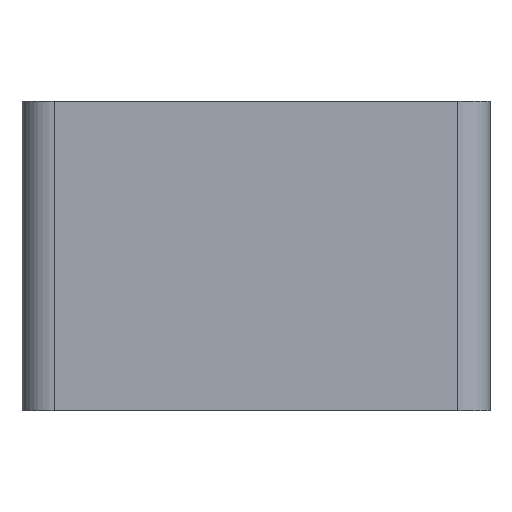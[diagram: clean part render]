
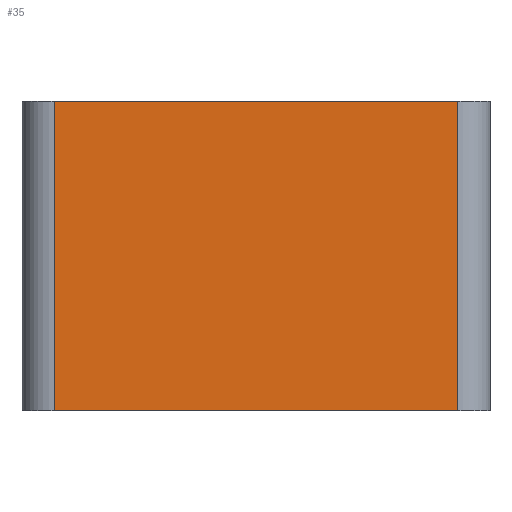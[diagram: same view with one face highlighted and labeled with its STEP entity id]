
A CAD part, left-side view. The second image highlights one B-rep face of the part: STEP entity #35.
In plain terms, the highlighted planar face has unit normal (-1, 0, 0).
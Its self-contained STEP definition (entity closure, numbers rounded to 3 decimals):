
#35 = ADVANCED_FACE('',(#36),#50,.F.);
#36 = FACE_BOUND('',#37,.F.);
#37 = EDGE_LOOP('',(#38,#73,#101,#129));
#38 = ORIENTED_EDGE('',*,*,#39,.F.);
#39 = EDGE_CURVE('',#40,#42,#44,.T.);
#40 = VERTEX_POINT('',#41);
#41 = CARTESIAN_POINT('',(-95.,-104.,4.8));
#42 = VERTEX_POINT('',#43);
#43 = CARTESIAN_POINT('',(-95.,-104.,120.));
#44 = SURFACE_CURVE('',#45,(#49,#61),.PCURVE_S1.);
#45 = LINE('',#46,#47);
#46 = CARTESIAN_POINT('',(-95.,-104.,4.8));
#47 = VECTOR('',#48,1.);
#48 = DIRECTION('',(0.,0.,1.));
#49 = PCURVE('',#50,#55);
#50 = PLANE('',#51);
#51 = AXIS2_PLACEMENT_3D('',#52,#53,#54);
#52 = CARTESIAN_POINT('',(-95.,-104.,62.4));
#53 = DIRECTION('',(1.,0.,0.));
#54 = DIRECTION('',(-0.,1.,0.));
#55 = DEFINITIONAL_REPRESENTATION('',(#56),#60);
#56 = LINE('',#57,#58);
#57 = CARTESIAN_POINT('',(0.,-57.6));
#58 = VECTOR('',#59,1.);
#59 = DIRECTION('',(0.,1.));
#60 = ( GEOMETRIC_REPRESENTATION_CONTEXT(2) 
PARAMETRIC_REPRESENTATION_CONTEXT() REPRESENTATION_CONTEXT('2D SPACE',''
  ) );
#61 = PCURVE('',#62,#67);
#62 = CYLINDRICAL_SURFACE('',#63,12.);
#63 = AXIS2_PLACEMENT_3D('',#64,#65,#66);
#64 = CARTESIAN_POINT('',(-83.,-104.,62.4));
#65 = DIRECTION('',(0.,0.,1.));
#66 = DIRECTION('',(-1.,0.,0.));
#67 = DEFINITIONAL_REPRESENTATION('',(#68),#72);
#68 = LINE('',#69,#70);
#69 = CARTESIAN_POINT('',(0.,-57.6));
#70 = VECTOR('',#71,1.);
#71 = DIRECTION('',(0.,1.));
#72 = ( GEOMETRIC_REPRESENTATION_CONTEXT(2) 
PARAMETRIC_REPRESENTATION_CONTEXT() REPRESENTATION_CONTEXT('2D SPACE',''
  ) );
#73 = ORIENTED_EDGE('',*,*,#74,.T.);
#74 = EDGE_CURVE('',#40,#75,#77,.T.);
#75 = VERTEX_POINT('',#76);
#76 = CARTESIAN_POINT('',(-95.,46.,4.8));
#77 = SURFACE_CURVE('',#78,(#82,#89),.PCURVE_S1.);
#78 = LINE('',#79,#80);
#79 = CARTESIAN_POINT('',(-95.,-29.,4.8));
#80 = VECTOR('',#81,1.);
#81 = DIRECTION('',(0.,1.,0.));
#82 = PCURVE('',#50,#83);
#83 = DEFINITIONAL_REPRESENTATION('',(#84),#88);
#84 = LINE('',#85,#86);
#85 = CARTESIAN_POINT('',(75.,-57.6));
#86 = VECTOR('',#87,1.);
#87 = DIRECTION('',(1.,0.));
#88 = ( GEOMETRIC_REPRESENTATION_CONTEXT(2) 
PARAMETRIC_REPRESENTATION_CONTEXT() REPRESENTATION_CONTEXT('2D SPACE',''
  ) );
#89 = PCURVE('',#90,#95);
#90 = PLANE('',#91);
#91 = AXIS2_PLACEMENT_3D('',#92,#93,#94);
#92 = CARTESIAN_POINT('',(0.,-29.,4.8));
#93 = DIRECTION('',(0.,0.,1.));
#94 = DIRECTION('',(1.,0.,-0.));
#95 = DEFINITIONAL_REPRESENTATION('',(#96),#100);
#96 = LINE('',#97,#98);
#97 = CARTESIAN_POINT('',(-95.,0.));
#98 = VECTOR('',#99,1.);
#99 = DIRECTION('',(0.,1.));
#100 = ( GEOMETRIC_REPRESENTATION_CONTEXT(2) 
PARAMETRIC_REPRESENTATION_CONTEXT() REPRESENTATION_CONTEXT('2D SPACE',''
  ) );
#101 = ORIENTED_EDGE('',*,*,#102,.F.);
#102 = EDGE_CURVE('',#103,#75,#105,.T.);
#103 = VERTEX_POINT('',#104);
#104 = CARTESIAN_POINT('',(-95.,46.,120.));
#105 = SURFACE_CURVE('',#106,(#110,#117),.PCURVE_S1.);
#106 = LINE('',#107,#108);
#107 = CARTESIAN_POINT('',(-95.,46.,120.));
#108 = VECTOR('',#109,1.);
#109 = DIRECTION('',(0.,0.,-1.));
#110 = PCURVE('',#50,#111);
#111 = DEFINITIONAL_REPRESENTATION('',(#112),#116);
#112 = LINE('',#113,#114);
#113 = CARTESIAN_POINT('',(150.,57.6));
#114 = VECTOR('',#115,1.);
#115 = DIRECTION('',(0.,-1.));
#116 = ( GEOMETRIC_REPRESENTATION_CONTEXT(2) 
PARAMETRIC_REPRESENTATION_CONTEXT() REPRESENTATION_CONTEXT('2D SPACE',''
  ) );
#117 = PCURVE('',#118,#123);
#118 = CYLINDRICAL_SURFACE('',#119,12.);
#119 = AXIS2_PLACEMENT_3D('',#120,#121,#122);
#120 = CARTESIAN_POINT('',(-83.,46.,62.4));
#121 = DIRECTION('',(0.,0.,1.));
#122 = DIRECTION('',(-1.,0.,0.));
#123 = DEFINITIONAL_REPRESENTATION('',(#124),#128);
#124 = LINE('',#125,#126);
#125 = CARTESIAN_POINT('',(6.283,57.6));
#126 = VECTOR('',#127,1.);
#127 = DIRECTION('',(0.,-1.));
#128 = ( GEOMETRIC_REPRESENTATION_CONTEXT(2) 
PARAMETRIC_REPRESENTATION_CONTEXT() REPRESENTATION_CONTEXT('2D SPACE',''
  ) );
#129 = ORIENTED_EDGE('',*,*,#130,.F.);
#130 = EDGE_CURVE('',#42,#103,#131,.T.);
#131 = SURFACE_CURVE('',#132,(#136,#143),.PCURVE_S1.);
#132 = LINE('',#133,#134);
#133 = CARTESIAN_POINT('',(-95.,-29.,120.));
#134 = VECTOR('',#135,1.);
#135 = DIRECTION('',(0.,1.,0.));
#136 = PCURVE('',#50,#137);
#137 = DEFINITIONAL_REPRESENTATION('',(#138),#142);
#138 = LINE('',#139,#140);
#139 = CARTESIAN_POINT('',(75.,57.6));
#140 = VECTOR('',#141,1.);
#141 = DIRECTION('',(1.,0.));
#142 = ( GEOMETRIC_REPRESENTATION_CONTEXT(2) 
PARAMETRIC_REPRESENTATION_CONTEXT() REPRESENTATION_CONTEXT('2D SPACE',''
  ) );
#143 = PCURVE('',#144,#149);
#144 = PLANE('',#145);
#145 = AXIS2_PLACEMENT_3D('',#146,#147,#148);
#146 = CARTESIAN_POINT('',(0.,-29.,120.));
#147 = DIRECTION('',(0.,0.,1.));
#148 = DIRECTION('',(1.,0.,-0.));
#149 = DEFINITIONAL_REPRESENTATION('',(#150),#154);
#150 = LINE('',#151,#152);
#151 = CARTESIAN_POINT('',(-95.,0.));
#152 = VECTOR('',#153,1.);
#153 = DIRECTION('',(0.,1.));
#154 = ( GEOMETRIC_REPRESENTATION_CONTEXT(2) 
PARAMETRIC_REPRESENTATION_CONTEXT() REPRESENTATION_CONTEXT('2D SPACE',''
  ) );
